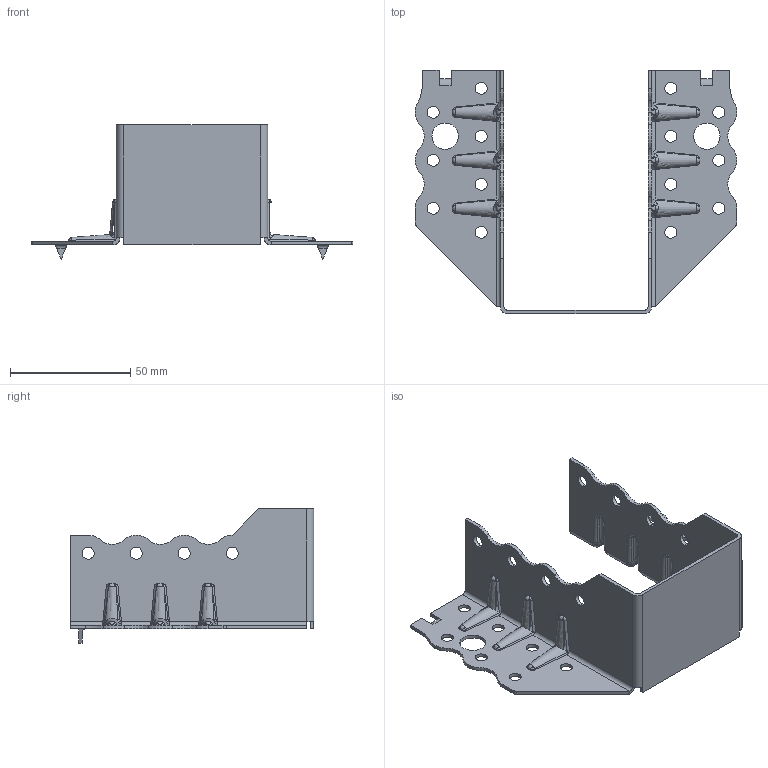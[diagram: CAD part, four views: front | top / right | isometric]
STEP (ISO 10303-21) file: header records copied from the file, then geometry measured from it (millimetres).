
FILE_DESCRIPTION (( 'STEP AP203' ), '1' );
FILE_NAME ('30502TOPK.STEP', '2020-04-06T12:41:27', ( '' ), ( '' ), 'SwSTEP 2.0', 'SolidWorks 2013', '' );
FILE_SCHEMA (( 'CONFIG_CONTROL_DESIGN' ));
Length unit declared in the file: millimetre
Products named in the file (1): 30502TOPK
Bounding box: 134 x 101.5 x 56 mm (x, y, z)
Volume: 24348.4 mm3; surface area: 34285.5 mm2
Topology: 1 solids, 1 shells, 470 faces, 1204 edges, 724 vertices
Faces by surface type: cylinder 178, bspline 174, plane 100, cone 18
Entity records: 28849 total; most frequent: CARTESIAN_POINT 18867, ORIENTED_EDGE 2384, DIRECTION 1500, EDGE_CURVE 1192, VERTEX_POINT 724, AXIS2_PLACEMENT_3D 523, EDGE_LOOP 518, B_SPLINE_CURVE_WITH_KNOTS 480
